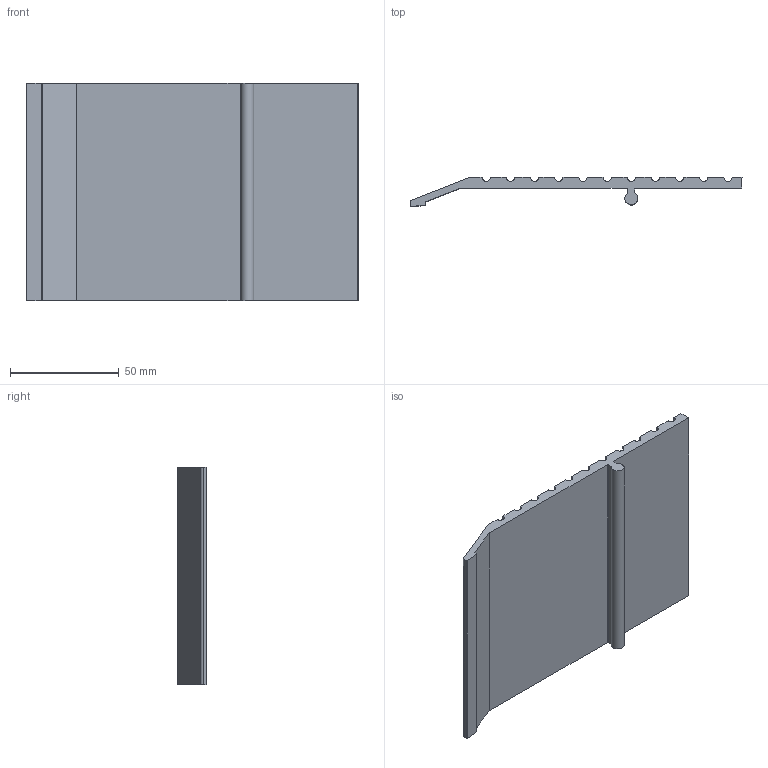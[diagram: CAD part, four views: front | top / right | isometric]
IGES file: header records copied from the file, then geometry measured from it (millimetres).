
Global section: file name: No Iges File Name specified; native system: Autodesk Inventor 2012; preprocessor: AutoDesk Inventor Iges Exporter R2012; author: anna.b; date: 20130718.122251; units: millimetre
Bounding box: 152.4 x 13.46 x 100 mm (x, y, z)
Volume: 69300.6 mm3; surface area: 37090.5 mm2
Topology: 1 solids, 1 shells, 43 faces, 123 edges, 82 vertices
Faces by surface type: plane 24, revolution 14, cylinder 5
